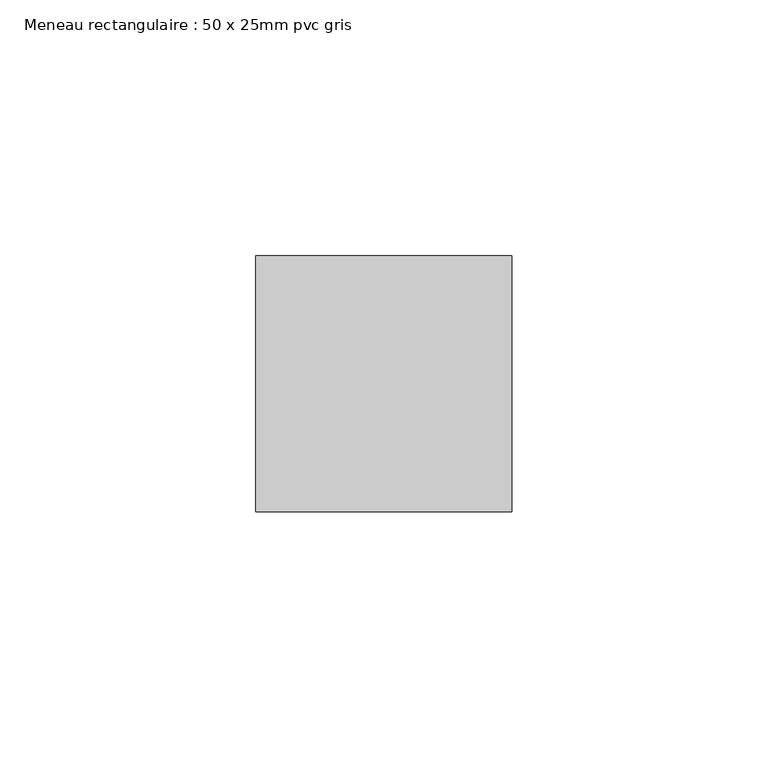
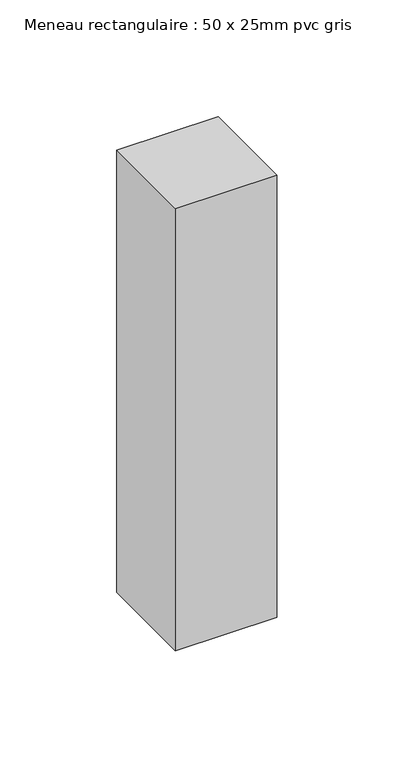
"""IFC4 building model written with IfcOpenShell, lengths in millimetres: member geometry, Meneau rectangulaire : 50 x 25mm pvc gris."""

import ifcopenshell
import ifcopenshell.guid

model = None  # the IFC model being written
_history = None  # IfcOwnerHistory: only IFC2X3 demands one
_inside = {}  # id of a spatial element -> (the spatial element, [elements in it])
_under = {}  # id of a project, library or spatial element -> (it, [spatial elements below it])
_declared = {}  # id of a project -> (the project, [libraries it declares])
_typed = {}  # id of a type object -> (the type object, [elements of that type])
_made_of = {}  # id of a material, layer set ... -> (it, [elements and type objects made of it])


def new_model(schema):
    """Start an empty IFC model of exactly this schema.

    Asked for "IFC4X3", IfcOpenShell would pick the latest addendum, in which some entities
    have other attributes; the version numbers below select the first issue.
    IFC2X3 requires an IfcOwnerHistory on every rooted entity: one is made here for all.
    """
    global model, _history
    if schema == "IFC4X3":
        model = ifcopenshell.file(schema_version=(4, 3, 0, 0))
    else:
        model = ifcopenshell.file(schema=schema)
    _inside.clear()
    _under.clear()
    _declared.clear()
    _typed.clear()
    _made_of.clear()
    _history = None
    if model.schema == "IFC2X3":
        org = make("IfcOrganization", Name="unknown")
        user = make(
            "IfcPersonAndOrganization",
            ThePerson=make("IfcPerson", FamilyName="unknown"),
            TheOrganization=org,
        )
        app = make(
            "IfcApplication",
            ApplicationDeveloper=org,
            Version="unknown",
            ApplicationFullName="unknown",
            ApplicationIdentifier="unknown",
        )
        _history = make(
            "IfcOwnerHistory",
            OwningUser=user,
            OwningApplication=app,
            ChangeAction="ADDED",
            CreationDate=0,
        )
    return model


def make(cls, **values):
    """One entity of the class cls with the attributes given. An attribute that is None is left unset."""
    return model.create_entity(
        cls, **{name: value for name, value in values.items() if value is not None}
    )


def rooted(cls, **values):
    """An entity with a GlobalId (a new one), such as an element, a storey or a relation."""
    return make(cls, GlobalId=ifcopenshell.guid.new(), OwnerHistory=_history, **values)


def si_unit(unit_type, name, prefix=None):
    """IfcSIUnit, for example si_unit("LENGTHUNIT", "METRE", prefix="MILLI")."""
    return make("IfcSIUnit", UnitType=unit_type, Prefix=prefix, Name=name)


def assignment(units):
    """IfcUnitAssignment: the units of a project."""
    return None if units is None else make("IfcUnitAssignment", Units=units)


def point(xyz):
    """IfcCartesianPoint."""
    return None if xyz is None else make("IfcCartesianPoint", Coordinates=xyz)


def direction(xyz):
    """IfcDirection."""
    return None if xyz is None else make("IfcDirection", DirectionRatios=xyz)


def frame(location, z_axis=None, x_axis=None):
    """IfcAxis2Placement3D, a coordinate frame: its origin and axes. An axis left out is left unset."""
    return make(
        "IfcAxis2Placement3D",
        Location=point(location),
        Axis=direction(z_axis),
        RefDirection=direction(x_axis),
    )


def origin():
    """The frame at (0, 0, 0) with its axes left unset."""
    return frame((0.0, 0.0, 0.0))


def place(relative_to, where):
    """IfcLocalPlacement: puts the frame where relative to a parent placement (None: the world)."""
    return make(
        "IfcLocalPlacement", PlacementRelTo=relative_to, RelativePlacement=where
    )


def context(
    kind, dimensions, precision=None, world=None, true_north=None, identifier=None
):
    """IfcGeometricRepresentationContext, for example the 3D "Model" context."""
    return make(
        "IfcGeometricRepresentationContext",
        ContextIdentifier=identifier,
        ContextType=kind,
        CoordinateSpaceDimension=dimensions,
        Precision=precision,
        WorldCoordinateSystem=world,
        TrueNorth=true_north,
    )


def project(units=None, contexts=None):
    """IfcProject with its units and contexts."""
    return rooted(
        "IfcProject",
        Name="project",
        RepresentationContexts=contexts,
        UnitsInContext=assignment(units),
    )


def spatial(cls, under=None, at=None, **own):
    """A site, building, storey or space (cls), placed at a placement, below another one or the project."""
    s = rooted(cls, ObjectPlacement=at, **own)
    if under is not None:
        _under.setdefault(under.id(), (under, []))[1].append(s)
    return s


def polyline(points):
    """IfcPolyline through the points."""
    return make("IfcPolyline", Points=[point(p) for p in points])


def outline(outer, holes=None, kind="AREA"):
    """IfcArbitraryClosedProfileDef: a profile drawn as a closed curve; with holes, ...WithVoids."""
    if holes is None:
        return make("IfcArbitraryClosedProfileDef", ProfileType=kind, OuterCurve=outer)
    return make(
        "IfcArbitraryProfileDefWithVoids",
        ProfileType=kind,
        OuterCurve=outer,
        InnerCurves=holes,
    )


def extrude(swept, where, along, depth):
    """IfcExtrudedAreaSolid: the profile swept, set in the frame where, extruded along a direction by depth."""
    return make(
        "IfcExtrudedAreaSolid",
        SweptArea=swept,
        Position=where,
        ExtrudedDirection=direction(along),
        Depth=depth,
    )


def shape(context_of_items, identifier, shape_type, items):
    """IfcShapeRepresentation: the items that make up one representation, for example the "Body"."""
    return make(
        "IfcShapeRepresentation",
        ContextOfItems=context_of_items,
        RepresentationIdentifier=identifier,
        RepresentationType=shape_type,
        Items=items,
    )


def source(mapping_origin, context_of_items, identifier, shape_type, items):
    """IfcRepresentationMap: a shape defined once, which mapped items show again and again."""
    return make(
        "IfcRepresentationMap",
        MappingOrigin=mapping_origin,
        MappedRepresentation=shape(context_of_items, identifier, shape_type, items),
    )


def transform(
    local_origin,
    x_axis=None,
    y_axis=None,
    z_axis=None,
    scale=None,
    scale2=None,
    scale3=None,
    uniform=True,
):
    """IfcCartesianTransformationOperator3D, or its non-uniform kind. x_axis, y_axis, z_axis: its Axis1, 2, 3."""
    if uniform:
        return make(
            "IfcCartesianTransformationOperator3D",
            Axis1=direction(x_axis),
            Axis2=direction(y_axis),
            LocalOrigin=point(local_origin),
            Scale=scale,
            Axis3=direction(z_axis),
        )
    return make(
        "IfcCartesianTransformationOperator3DnonUniform",
        Axis1=direction(x_axis),
        Axis2=direction(y_axis),
        LocalOrigin=point(local_origin),
        Scale=scale,
        Axis3=direction(z_axis),
        Scale2=scale2,
        Scale3=scale3,
    )


def mapped(mapping_source, mapping_target):
    """IfcMappedItem: shows the shape of a source again, moved by a transform."""
    return make(
        "IfcMappedItem", MappingSource=mapping_source, MappingTarget=mapping_target
    )


def made_of(thing, what):
    """Note that an element or type object is made of a material, layer set ...; save() writes the relation."""
    if what is not None:
        _made_of.setdefault(what.id(), (what, []))[1].append(thing)
    return thing


def element(
    cls,
    number,
    at=None,
    inside=None,
    cuts=None,
    type_object=None,
    material=None,
    context=None,
    identifier="Body",
    shape_type=None,
    held_by="IfcProductDefinitionShape",
    body=None,
    shapes=None,
    **own,
):
    """One element of the class cls, such as IfcWall. Its Tag is "e" and its number.

    at: its placement. inside: the storey or other place that contains it. cuts: it is an
    opening in that element (IfcRelVoidsElement). A single representation is given by context,
    identifier, shape_type and body (its items); several are given by shapes. held_by: the class
    of the entity that holds the representations. save() writes the other relations.
    """
    e = rooted(cls, Tag="e%d" % number, ObjectPlacement=at, **own)
    if body is not None:
        shapes = [shape(context, identifier, shape_type, body)]
    if shapes is not None:
        e.Representation = make(held_by, Representations=shapes)
    if inside is not None:
        _inside.setdefault(inside.id(), (inside, []))[1].append(e)
    if cuts is not None:
        rooted(
            "IfcRelVoidsElement", RelatingBuildingElement=cuts, RelatedOpeningElement=e
        )
    if type_object is not None:
        _typed.setdefault(type_object.id(), (type_object, []))[1].append(e)
    return made_of(e, material)


def aggregate(whole, parts):
    """IfcRelAggregates: a whole, such as a stair, and the parts it consists of."""
    return rooted("IfcRelAggregates", RelatingObject=whole, RelatedObjects=parts)


def save(model, path):
    """Write the relations noted so far, then the file.

    IfcRelAggregates (storeys below a building ...), IfcRelContainedInSpatialStructure (elements
    in a storey), IfcRelDefinesByType, IfcRelAssociatesMaterial and IfcRelDeclares: one each for
    every whole, place, type object, material and project.
    """
    for whole, parts in _under.values():
        aggregate(whole, parts)
    for where, things in _inside.values():
        rooted(
            "IfcRelContainedInSpatialStructure",
            RelatedElements=things,
            RelatingStructure=where,
        )
    for kind, things in _typed.values():
        rooted("IfcRelDefinesByType", RelatedObjects=things, RelatingType=kind)
    for what, things in _made_of.values():
        rooted("IfcRelAssociatesMaterial", RelatedObjects=things, RelatingMaterial=what)
    for by, libraries in _declared.values():
        rooted("IfcRelDeclares", RelatingContext=by, RelatedDefinitions=libraries)
    model.write(path)


def meneau_rectangulaire_50_x_25mm_pvc_gris_21cb2525(model_context):
    return source(origin(), model_context, "Body", "SweptSolid", [
        extrude(outline(polyline([(0.0, 0.0), (0.0, -50.0), (-50.0, -50.0), (-50.0, 0.0), (0.0, 0.0)])), frame((0.0, 0.0, -231.0), z_axis=(0.0, 0.0, 1.0), x_axis=(1.0, 0.0, 0.0)), (0.0, 0.0, 1.0), 231.0),
    ])


if __name__ == "__main__":
    model = new_model("IFC4")
    model_context = context("Model", 3, world=origin())
    ifc_project = project(units=[si_unit("LENGTHUNIT", "METRE", prefix="MILLI")], contexts=[model_context])
    site = spatial("IfcSite", under=ifc_project)
    building = spatial("IfcBuilding", under=site)
    placement = place(None, origin())
    meneau_rectangulaire_50_x_25mm_pvc_gris_shape = meneau_rectangulaire_50_x_25mm_pvc_gris_21cb2525(model_context)
    element("IfcMember", 1, ObjectType="Meneau rectangulaire : 50 x 25mm pvc gris", at=placement, inside=building, context=model_context, shape_type="MappedRepresentation", body=[
        mapped(meneau_rectangulaire_50_x_25mm_pvc_gris_shape, transform((0.0, 0.0, 0.0), x_axis=(1.0, 0.0, 0.0), y_axis=(0.0, 1.0, 0.0), z_axis=(0.0, 0.0, 1.0))),
    ])
    save(model, "model.ifc")
